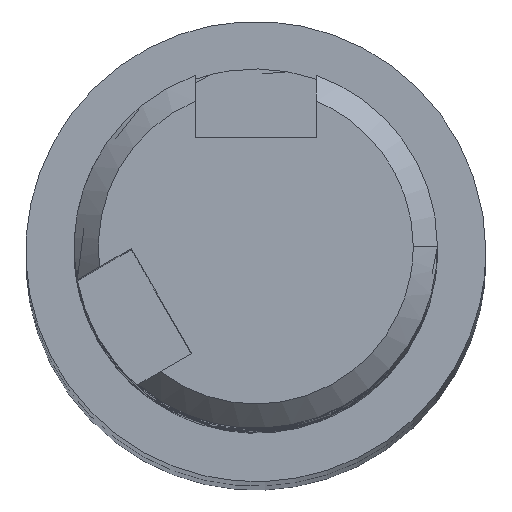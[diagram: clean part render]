
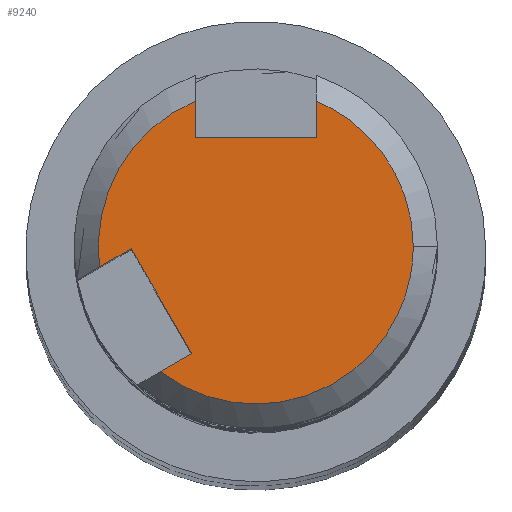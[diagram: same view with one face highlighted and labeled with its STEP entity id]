
A CAD part, top view. The second image highlights one B-rep face of the part: STEP entity #9240.
In plain terms, the highlighted free-form (B-spline) face has degree [1, 1] with [2, 2] control points.
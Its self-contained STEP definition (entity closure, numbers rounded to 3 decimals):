
#8270 = CARTESIAN_POINT ('', (-5.147, -0.085, 220.));
#8280 = VERTEX_POINT ('', #8270);
#8290 = CARTESIAN_POINT ('', (-2.647, -4.415, 220.));
#8300 = VERTEX_POINT ('', #8290);
#8310 = CARTESIAN_POINT ('', (-5.147, -0.085, 220.));
#8320 = CARTESIAN_POINT ('', (-2.647, -4.415, 220.));
#8330 = B_SPLINE_CURVE_WITH_KNOTS ('', 1, (#8310, #8320), .UNSPECIFIED., .F., .U., (2, 2), (0., 1.), .UNSPECIFIED.);
#8340 = EDGE_CURVE ('', #8280, #8300, #8330, .T.);
#8550 = CARTESIAN_POINT ('', (-2.5, 6., 220.));
#8560 = VERTEX_POINT ('', #8550);
#8570 = CARTESIAN_POINT ('', (-6.446, -0.835, 220.));
#8580 = VERTEX_POINT ('', #8570);
#8590 = CARTESIAN_POINT ('', (-2.5, 6., 220.));
#8600 = CARTESIAN_POINT ('', (-6.5, 4.333, 220.));
#8610 = CARTESIAN_POINT ('', (-6.5, 0., 220.));
#8620 = CARTESIAN_POINT ('', (-6.5, -0.419, 220.));
#8630 = CARTESIAN_POINT ('', (-6.446, -0.835, 220.));
#8640 = (
   BOUNDED_CURVE ()
   B_SPLINE_CURVE (2, (#8590, #8600, #8610, #8620, #8630), .UNSPECIFIED., .F., .U.)
   B_SPLINE_CURVE_WITH_KNOTS ((3, 2, 3), (0.315, 0.5, 0.522), .UNSPECIFIED.)
   CURVE ()
   GEOMETRIC_REPRESENTATION_ITEM ()
   RATIONAL_B_SPLINE_CURVE ((0.887, 0.784, 1., 0.974, 0.953))
   REPRESENTATION_ITEM ('')
);
#8650 = EDGE_CURVE ('', #8560, #8580, #8640, .T.);
#8660 = ORIENTED_EDGE ('', *, *, #8650, .T.);
#8670 = CARTESIAN_POINT ('', (-6.446, -0.835, 220.));
#8680 = CARTESIAN_POINT ('', (-5.147, -0.085, 220.));
#8690 = B_SPLINE_CURVE_WITH_KNOTS ('', 1, (#8670, #8680), .UNSPECIFIED., .F., .U., (2, 2), (0.7, 1.), .UNSPECIFIED.);
#8700 = EDGE_CURVE ('', #8580, #8280, #8690, .T.);
#8710 = ORIENTED_EDGE ('', *, *, #8700, .T.);
#8720 = ORIENTED_EDGE ('', *, *, #8340, .T.);
#8730 = CARTESIAN_POINT ('', (-3.946, -5.165, 220.));
#8740 = VERTEX_POINT ('', #8730);
#8750 = CARTESIAN_POINT ('', (-3.946, -5.165, 220.));
#8760 = CARTESIAN_POINT ('', (-2.647, -4.415, 220.));
#8770 = B_SPLINE_CURVE_WITH_KNOTS ('', 1, (#8750, #8760), .UNSPECIFIED., .F., .U., (2, 2), (0.7, 1.), .UNSPECIFIED.);
#8780 = EDGE_CURVE ('', #8740, #8300, #8770, .T.);
#8790 = ORIENTED_EDGE ('', *, *, #8780, .F.);
#8800 = CARTESIAN_POINT ('', (6.5, 0., 220.));
#8810 = VERTEX_POINT ('', #8800);
#8820 = CARTESIAN_POINT ('', (-3.946, -5.165, 220.));
#8830 = CARTESIAN_POINT ('', (-2.199, -6.5, 220.));
#8840 = CARTESIAN_POINT ('', (0., -6.5, 220.));
#8850 = CARTESIAN_POINT ('', (6.5, -6.5, 220.));
#8860 = CARTESIAN_POINT ('', (6.5, 0., 220.));
#8870 = (
   BOUNDED_CURVE ()
   B_SPLINE_CURVE (2, (#8820, #8830, #8840, #8850, #8860), .UNSPECIFIED., .F., .U.)
   B_SPLINE_CURVE_WITH_KNOTS ((3, 2, 3), (0.645, 0.75, 1.), .UNSPECIFIED.)
   CURVE ()
   GEOMETRIC_REPRESENTATION_ITEM ()
   RATIONAL_B_SPLINE_CURVE ((0.857, 0.877, 1., 0.707, 1.))
   REPRESENTATION_ITEM ('')
);
#8880 = EDGE_CURVE ('', #8740, #8810, #8870, .T.);
#8890 = ORIENTED_EDGE ('', *, *, #8880, .T.);
#8900 = CARTESIAN_POINT ('', (2.5, 6., 220.));
#8910 = VERTEX_POINT ('', #8900);
#8920 = CARTESIAN_POINT ('', (6.5, 0., 220.));
#8930 = CARTESIAN_POINT ('', (6.5, 4.333, 220.));
#8940 = CARTESIAN_POINT ('', (2.5, 6., 220.));
#8950 = (
   BOUNDED_CURVE ()
   B_SPLINE_CURVE (2, (#8920, #8930, #8940), .UNSPECIFIED., .F., .U.)
   B_SPLINE_CURVE_WITH_KNOTS ((3, 3), (0., 0.185), .UNSPECIFIED.)
   CURVE ()
   GEOMETRIC_REPRESENTATION_ITEM ()
   RATIONAL_B_SPLINE_CURVE ((1., 0.784, 0.887))
   REPRESENTATION_ITEM ('')
);
#8960 = EDGE_CURVE ('', #8810, #8910, #8950, .T.);
#8970 = ORIENTED_EDGE ('', *, *, #8960, .T.);
#8980 = CARTESIAN_POINT ('', (2.5, 4.5, 220.));
#8990 = VERTEX_POINT ('', #8980);
#9000 = CARTESIAN_POINT ('', (2.5, 6., 220.));
#9010 = CARTESIAN_POINT ('', (2.5, 4.5, 220.));
#9020 = B_SPLINE_CURVE_WITH_KNOTS ('', 1, (#9000, #9010), .UNSPECIFIED., .F., .U., (2, 2), (0.7, 1.), .UNSPECIFIED.);
#9030 = EDGE_CURVE ('', #8910, #8990, #9020, .T.);
#9040 = ORIENTED_EDGE ('', *, *, #9030, .T.);
#9050 = CARTESIAN_POINT ('', (-2.5, 4.5, 220.));
#9060 = VERTEX_POINT ('', #9050);
#9070 = CARTESIAN_POINT ('', (2.5, 4.5, 220.));
#9080 = CARTESIAN_POINT ('', (-2.5, 4.5, 220.));
#9090 = B_SPLINE_CURVE_WITH_KNOTS ('', 1, (#9070, #9080), .UNSPECIFIED., .F., .U., (2, 2), (0., 1.), .UNSPECIFIED.);
#9100 = EDGE_CURVE ('', #8990, #9060, #9090, .T.);
#9110 = ORIENTED_EDGE ('', *, *, #9100, .T.);
#9120 = CARTESIAN_POINT ('', (-2.5, 6., 220.));
#9130 = CARTESIAN_POINT ('', (-2.5, 4.5, 220.));
#9140 = B_SPLINE_CURVE_WITH_KNOTS ('', 1, (#9120, #9130), .UNSPECIFIED., .F., .U., (2, 2), (0.7, 1.), .UNSPECIFIED.);
#9150 = EDGE_CURVE ('', #8560, #9060, #9140, .T.);
#9160 = ORIENTED_EDGE ('', *, *, #9150, .F.);
#9170 = EDGE_LOOP ('', (#8660, #8710, #8720, #8790, #8890, #8970, #9040, #9110, #9160));
#9180 = FACE_OUTER_BOUND ('', #9170, .T.);
#9190 = CARTESIAN_POINT ('', (19.071, -18.492, 220.));
#9200 = CARTESIAN_POINT ('', (-19.537, -18.492, 220.));
#9210 = CARTESIAN_POINT ('', (19.071, 20.116, 220.));
#9220 = CARTESIAN_POINT ('', (-19.537, 20.116, 220.));
#9230 = B_SPLINE_SURFACE_WITH_KNOTS ('', 1, 1, ((#9190, #9200), (#9210, #9220)), .UNSPECIFIED., .F., .F., .U., (2, 2), (2, 2), (0., 1.), (0., 1.), .UNSPECIFIED.);
#9240 = ADVANCED_FACE ('', (#9180), #9230, .T.);
